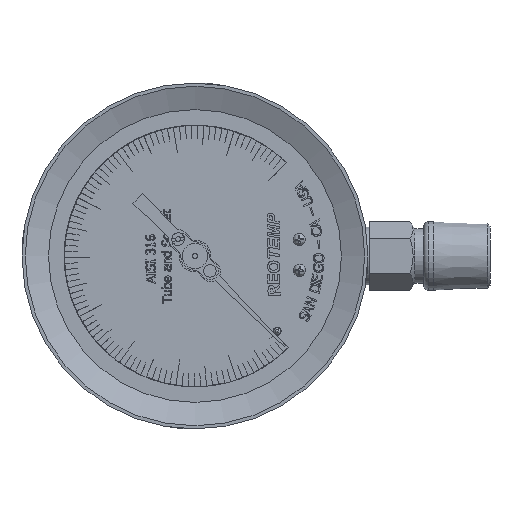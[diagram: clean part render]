
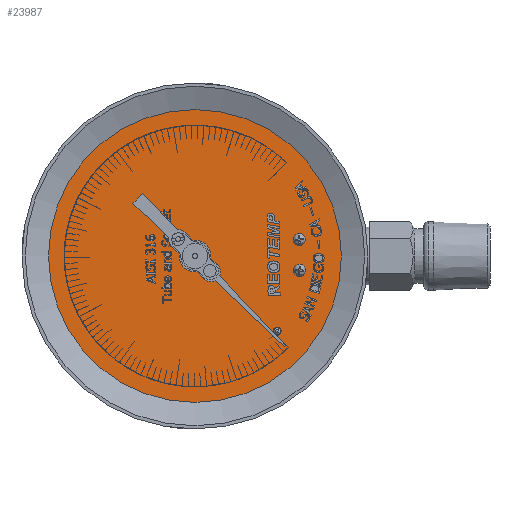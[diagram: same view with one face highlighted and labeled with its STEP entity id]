
A CAD part, left-side view. The second image highlights one B-rep face of the part: STEP entity #23987.
In plain terms, the highlighted planar face has unit normal (1, 0, 0).
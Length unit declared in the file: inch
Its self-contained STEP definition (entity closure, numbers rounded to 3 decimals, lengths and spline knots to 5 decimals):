
#2126=FACE_BOUND($,#3740,.T.);
#2127=FACE_BOUND($,#3741,.T.);
#3740=EDGE_LOOP($,(#16432));
#3741=EDGE_LOOP($,(#16433));
#10326=CIRCLE($,#25339,0.05);
#10327=CIRCLE($,#25340,1.82);
#10590=VERTEX_POINT($,#31794);
#10591=VERTEX_POINT($,#31796);
#12913=EDGE_CURVE($,#10590,#10590,#10326,.T.);
#12914=EDGE_CURVE($,#10591,#10591,#10327,.T.);
#16432=ORIENTED_EDGE($,*,*,#12913,.F.);
#16433=ORIENTED_EDGE($,*,*,#12914,.F.);
#23072=PLANE($,#25338);
#23987=ADVANCED_FACE($,(#2126,#2127),#23072,.F.);
#25338=AXIS2_PLACEMENT_3D($,#31793,#26741,#26742);
#25339=AXIS2_PLACEMENT_3D($,#31795,#26743,#26744);
#25340=AXIS2_PLACEMENT_3D($,#31797,#26745,#26746);
#26741=DIRECTION('center_axis',(-1.,0.,0.));
#26742=DIRECTION('ref_axis',(0.,1.,0.));
#26743=DIRECTION('center_axis',(1.,0.,0.));
#26744=DIRECTION('ref_axis',(0.,0.989,0.146));
#26745=DIRECTION('center_axis',(-1.,0.,0.));
#26746=DIRECTION('ref_axis',(0.,1.,0.));
#31793=CARTESIAN_POINT('Origin',(-0.8875,0.5938,0.));
#31794=CARTESIAN_POINT('',(-0.8875,-0.4769,-0.94303));
#31795=CARTESIAN_POINT('Origin',(-0.8875,-0.42744,-0.93571));
#31796=CARTESIAN_POINT('',(-0.8875,-1.2262,0.));
#31797=CARTESIAN_POINT('Origin',(-0.8875,0.5938,0.));
